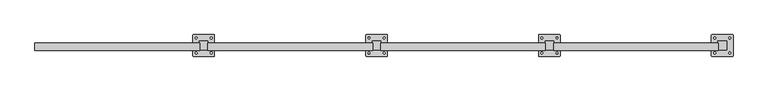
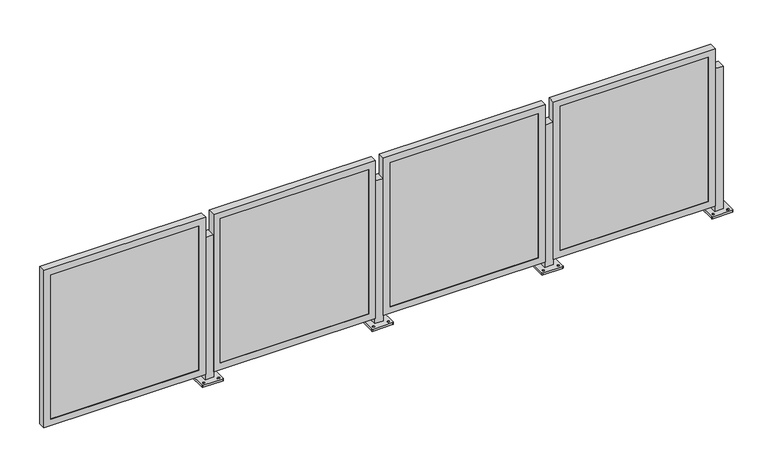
"""IFC4 building model written with IfcOpenShell, lengths in millimetres: railing geometry."""

from ifc_helpers import new_model, si_unit, frame, origin, place, context, project, spatial, polyline, circle_curve, outline, extrude, faceted_brep, source, transform, mapped, element, save
from ifc_brep_helpers import plane_surface, cylinder_surface, revolved_surface, advanced_brep


def railing_c4543240(model_context):
    return source(origin(), model_context, "Body", "SolidModel", [
        advanced_brep(
        [(-22960.2510122, -6796.0307329, 914.4), (-22960.2510122, -6846.8307329, 914.4), (-22909.4510122, -6846.8307329, 914.4), (-22909.4510122, -6796.0307329, 914.4), (-22998.3510123, -6881.7556919, 0.0), (-22998.3510123, -6761.105774, 0.0), (-22995.1759842, -6757.9307458, 0.0), (-22874.5260402, -6757.9307458, 0.0), (-22871.351012, -6761.105774, 0.0), (-22871.351012, -6881.7556919, 0.0), (-22874.5260402, -6884.9307201, 0.0), (-22995.1759842, -6884.9307201, 0.0), (-22979.3009997, -6871.4369876, 0.0), (-22979.3009997, -6860.3244751, 0.0), (-22979.3010106, -6782.5369832, 0.0), (-22979.3010106, -6771.4245016, 0.0), (-22890.4009988, -6871.4369861, 0.0), (-22890.4009988, -6860.3244754, 0.0), (-22890.4010097, -6782.5369817, 0.0), (-22890.4010097, -6771.4245019, 0.0), (-22960.2510122, -6796.0307329, 12.7), (-22960.2510122, -6846.8307329, 12.7), (-22909.4510122, -6846.8307329, 12.7), (-22909.4510122, -6796.0307329, 12.7), (-22998.3510123, -6881.7556919, 12.7), (-22995.1759842, -6884.9307201, 12.7), (-22874.5260402, -6884.9307201, 12.7), (-22871.351012, -6881.7556919, 12.7), (-22871.351012, -6761.105774, 12.7), (-22874.5260402, -6757.9307458, 12.7), (-22995.1759842, -6757.9307458, 12.7), (-22998.3510123, -6761.105774, 12.7), (-22979.3009997, -6871.4369876, 12.7), (-22979.3009997, -6860.3244751, 12.7), (-22979.3010106, -6782.5369832, 12.7), (-22979.3010106, -6771.4245016, 12.7), (-22890.4009988, -6871.4369861, 12.7), (-22890.4009988, -6860.3244754, 12.7), (-22890.4010097, -6782.5369817, 12.7), (-22890.4010097, -6771.4245019, 12.7)],
        [
            (0, 1),
            (1, 2),
            (2, 3),
            (3, 0),
            (4, 5),
            (5, 6, circle_curve(frame((-22995.1759842, -6761.105774, 0.0), z_axis=(0.0, 0.0, -1.0), x_axis=(0.0, 1.0, 0.0)), 3.1750282)),
            (6, 7),
            (7, 8, circle_curve(frame((-22874.5260402, -6761.105774, 0.0), z_axis=(0.0, 0.0, -1.0), x_axis=(0.0, 1.0, 0.0)), 3.1750282)),
            (8, 9),
            (9, 10, circle_curve(frame((-22874.5260402, -6881.7556919, 0.0), z_axis=(0.0, 0.0, -1.0), x_axis=(0.0, 1.0, 0.0)), 3.1750282)),
            (10, 11),
            (11, 4, circle_curve(frame((-22995.1759842, -6881.7556919, 0.0), z_axis=(0.0, 0.0, -1.0), x_axis=(0.0, 1.0, 0.0)), 3.1750282)),
            (12, 13, circle_curve(frame((-22979.3009997, -6865.8807314, 0.0), z_axis=(0.0, 0.0, 1.0), x_axis=(0.0, 1.0, 0.0)), 5.5562562)),
            (13, 12, circle_curve(frame((-22979.3009997, -6865.8807314, 0.0), z_axis=(0.0, 0.0, 1.0), x_axis=(0.0, 1.0, 0.0)), 5.5562562)),
            (14, 15, circle_curve(frame((-22979.3010106, -6776.9807424, 0.0), z_axis=(0.0, 0.0, 1.0), x_axis=(0.0, 1.0, 0.0)), 5.5562408)),
            (15, 14, circle_curve(frame((-22979.3010106, -6776.9807424, 0.0), z_axis=(0.0, 0.0, 1.0), x_axis=(0.0, 1.0, 0.0)), 5.5562408)),
            (16, 17, circle_curve(frame((-22890.4009988, -6865.8807307, 0.0), z_axis=(0.0, 0.0, 1.0), x_axis=(0.0, 1.0, 0.0)), 5.5562553)),
            (17, 16, circle_curve(frame((-22890.4009988, -6865.8807307, 0.0), z_axis=(0.0, 0.0, 1.0), x_axis=(0.0, 1.0, 0.0)), 5.5562553)),
            (18, 19, circle_curve(frame((-22890.4010097, -6776.9807418, 0.0), z_axis=(0.0, 0.0, 1.0), x_axis=(0.0, 1.0, 0.0)), 5.5562399)),
            (19, 18, circle_curve(frame((-22890.4010097, -6776.9807418, 0.0), z_axis=(0.0, 0.0, 1.0), x_axis=(0.0, 1.0, 0.0)), 5.5562399)),
            (0, 20),
            (20, 21),
            (21, 1),
            (21, 22),
            (22, 2),
            (22, 23),
            (23, 3),
            (23, 20),
            (24, 25, circle_curve(frame((-22995.1759842, -6881.7556919, 12.7), z_axis=(0.0, 0.0, 1.0), x_axis=(0.0, 1.0, 0.0)), 3.1750282)),
            (25, 26),
            (26, 27, circle_curve(frame((-22874.5260402, -6881.7556919, 12.7), z_axis=(0.0, 0.0, 1.0), x_axis=(0.0, 1.0, 0.0)), 3.1750282)),
            (27, 28),
            (28, 29, circle_curve(frame((-22874.5260402, -6761.105774, 12.7), z_axis=(0.0, 0.0, 1.0), x_axis=(0.0, 1.0, 0.0)), 3.1750282)),
            (29, 30),
            (30, 31, circle_curve(frame((-22995.1759842, -6761.105774, 12.7), z_axis=(0.0, 0.0, 1.0), x_axis=(0.0, 1.0, 0.0)), 3.1750282)),
            (31, 24),
            (32, 33, circle_curve(frame((-22979.3009997, -6865.8807314, 12.7), z_axis=(0.0, 0.0, -1.0), x_axis=(0.0, 1.0, 0.0)), 5.5562562)),
            (33, 32, circle_curve(frame((-22979.3009997, -6865.8807314, 12.7), z_axis=(0.0, 0.0, -1.0), x_axis=(0.0, 1.0, 0.0)), 5.5562562)),
            (34, 35, circle_curve(frame((-22979.3010106, -6776.9807424, 12.7), z_axis=(0.0, 0.0, -1.0), x_axis=(0.0, 1.0, 0.0)), 5.5562408)),
            (35, 34, circle_curve(frame((-22979.3010106, -6776.9807424, 12.7), z_axis=(0.0, 0.0, -1.0), x_axis=(0.0, 1.0, 0.0)), 5.5562408)),
            (36, 37, circle_curve(frame((-22890.4009988, -6865.8807307, 12.7), z_axis=(0.0, 0.0, -1.0), x_axis=(0.0, 1.0, 0.0)), 5.5562553)),
            (37, 36, circle_curve(frame((-22890.4009988, -6865.8807307, 12.7), z_axis=(0.0, 0.0, -1.0), x_axis=(0.0, 1.0, 0.0)), 5.5562553)),
            (38, 39, circle_curve(frame((-22890.4010097, -6776.9807418, 12.7), z_axis=(0.0, 0.0, -1.0), x_axis=(0.0, 1.0, 0.0)), 5.5562399)),
            (39, 38, circle_curve(frame((-22890.4010097, -6776.9807418, 12.7), z_axis=(0.0, 0.0, -1.0), x_axis=(0.0, 1.0, 0.0)), 5.5562399)),
            (24, 4),
            (11, 25),
            (10, 26),
            (9, 27),
            (8, 28),
            (7, 29),
            (6, 30),
            (5, 31),
            (32, 12),
            (13, 33),
            (34, 14),
            (15, 35),
            (36, 16),
            (17, 37),
            (38, 18),
            (19, 39),
        ],
        [
            plane_surface(frame((-22960.2510122, -6846.8307329, 914.4), z_axis=(0.0, 0.0, 1.0), x_axis=(0.0, -1.0, 0.0))),
            plane_surface(frame((-22960.2510122, -6846.8307329, 0.0), z_axis=(0.0, 0.0, -1.0), x_axis=(0.0, 1.0, 0.0))),
            plane_surface(frame((-22960.2510122, -6796.0307329, 914.4), z_axis=(-1.0, 0.0, 0.0), x_axis=(0.0, 0.0, -1.0))),
            plane_surface(frame((-22960.2510122, -6846.8307329, 914.4), z_axis=(0.0, -1.0, 0.0), x_axis=(0.0, 0.0, -1.0))),
            plane_surface(frame((-22909.4510122, -6846.8307329, 914.4), z_axis=(1.0, 0.0, 0.0), x_axis=(0.0, 0.0, -1.0))),
            plane_surface(frame((-22909.4510122, -6796.0307329, 914.4), z_axis=(0.0, 1.0, 0.0), x_axis=(0.0, 0.0, -1.0))),
            plane_surface(frame((-22995.1759842, -6878.5806638, 12.7), z_axis=(0.0, 0.0, 1.0), x_axis=(-1.0, 0.0, 0.0))),
            cylinder_surface(frame((-22995.1759842, -6881.7556919, 0.0), z_axis=(0.0, 0.0, 1.0), x_axis=(0.0, 1.0, 0.0)), 3.1750282),
            plane_surface(frame((-22995.1759842, -6884.9307201, 12.7), z_axis=(1.1945386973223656e-12, -1.0, 0.0), x_axis=(0.0, 0.0, -1.0))),
            cylinder_surface(frame((-22874.5260402, -6881.7556919, 0.0), z_axis=(0.0, 0.0, 1.0), x_axis=(0.0, 1.0, 0.0)), 3.1750282),
            plane_surface(frame((-22871.351012, -6881.7556919, 12.7), z_axis=(1.0, 0.0, 0.0), x_axis=(0.0, 0.0, -1.0))),
            cylinder_surface(frame((-22874.5260402, -6761.105774, 0.0), z_axis=(0.0, 0.0, 1.0), x_axis=(0.0, 1.0, 0.0)), 3.1750282),
            plane_surface(frame((-22874.5260402, -6757.9307458, 12.7), z_axis=(-1.1946088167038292e-12, 1.0, 0.0), x_axis=(0.0, 0.0, -1.0))),
            cylinder_surface(frame((-22995.1759842, -6761.105774, 0.0), z_axis=(0.0, 0.0, 1.0), x_axis=(0.0, 1.0, 0.0)), 3.1750282),
            plane_surface(frame((-22998.3510123, -6761.105774, 12.7), z_axis=(-1.0, 0.0, 0.0), x_axis=(0.0, 0.0, -1.0))),
            revolved_surface(polyline([(-22979.3009997, -6860.3244752, 0.0), (-22979.3009997, -6860.3244752, 12.7)]), (-22979.3009997, -6865.8807314, 0.0), (0.0, 0.0, -1.0)),
            revolved_surface(polyline([(-22979.3010106, -6771.4245016, 0.0), (-22979.3010106, -6771.4245016, 12.7)]), (-22979.3010106, -6776.9807424, 0.0), (0.0, 0.0, -1.0)),
            revolved_surface(polyline([(-22890.4009988, -6860.3244754, 0.0), (-22890.4009988, -6860.3244754, 12.7)]), (-22890.4009988, -6865.8807307, 0.0), (0.0, 0.0, -1.0)),
            revolved_surface(polyline([(-22890.4010097, -6771.4245019, 0.0), (-22890.4010097, -6771.4245019, 12.7)]), (-22890.4010097, -6776.9807418, 0.0), (0.0, 0.0, -1.0)),
        ],
        [
            (0, [[1, 2, 3, 4]]),
            (1, [[5, 6, 7, 8, 9, 10, 11, 12], [13, 14], [15, 16], [17, 18], [19, 20]]),
            (2, [[-1, 21, 22, 23]]),
            (3, [[-2, -23, 24, 25]]),
            (4, [[-3, -25, 26, 27]]),
            (5, [[-4, -27, 28, -21]]),
            (6, [[29, 30, 31, 32, 33, 34, 35, 36], [-22, -28, -26, -24], [37, 38], [39, 40], [41, 42], [43, 44]]),
            (7, [[-29, 45, -12, 46]]),
            (8, [[-30, -46, -11, 47]]),
            (9, [[-31, -47, -10, 48]]),
            (10, [[-32, -48, -9, 49]]),
            (11, [[-33, -49, -8, 50]]),
            (12, [[-34, -50, -7, 51]]),
            (13, [[-35, -51, -6, 52]]),
            (14, [[-36, -52, -5, -45]]),
            (15, [[-37, 53, -14, 54]]),
            (15, [[-38, -54, -13, -53]]),
            (16, [[-39, 55, -16, 56]]),
            (16, [[-40, -56, -15, -55]]),
            (17, [[-41, 57, -18, 58]]),
            (17, [[-42, -58, -17, -57]]),
            (18, [[-43, 59, -20, 60]]),
            (18, [[-44, -60, -19, -59]]),
        ],
    ),
        faceted_brep([(-23926.6554656, -6849.5739329, 47.625), (-22958.2804656, -6849.5739329, 47.625), (-22958.2804656, -6849.5739329, 1044.575), (-23926.6554656, -6849.5739329, 1044.575), (-23885.3804656, -6849.5739329, 1003.3), (-22999.5554656, -6849.5739329, 1003.3), (-22999.5554656, -6849.5739329, 88.9), (-23885.3804656, -6849.5739329, 88.9), (-23885.3804656, -6846.8307329, 1003.3), (-23885.3804656, -6846.8307329, 88.9), (-23926.6554656, -6805.7006364, 1044.575), (-23926.6554656, -6805.7006364, 47.625), (-23923.4804656, -6805.7006364, 1041.4), (-23923.4804656, -6846.8307329, 1041.4), (-23923.4804656, -6846.8307329, 50.8), (-23923.4804656, -6805.7006364, 50.8), (-22999.5554656, -6846.8307329, 88.9), (-22958.2804656, -6805.7006364, 47.625), (-22961.4554656, -6846.8307329, 50.8), (-22961.4554656, -6805.7006364, 50.8), (-22999.5554656, -6846.8307329, 1003.3), (-22958.2804656, -6805.7006364, 1044.575), (-22961.4554656, -6846.8307329, 1041.4), (-22961.4554656, -6805.7006364, 1041.4)], [[[0, 1, 2, 3], [4, 5, 6, 7]], [[8, 4, 7, 9]], [[3, 10, 11, 0]], [[12, 13, 14, 15]], [[9, 7, 6, 16]], [[0, 11, 17, 1]], [[15, 14, 18, 19]], [[16, 6, 5, 20]], [[1, 17, 21, 2]], [[19, 18, 22, 23]], [[20, 5, 4, 8]], [[10, 21, 17, 11], [15, 19, 23, 12]], [[2, 21, 10, 3]], [[13, 22, 18, 14], [9, 16, 20, 8]], [[23, 22, 13, 12]]]),
        extrude(outline(polyline([(-23923.4804656, -6837.3057329), (-22961.4554656, -6837.3057329), (-22961.4554656, -6846.8307329), (-23923.4804656, -6846.8307329), (-23923.4804656, -6837.3057329)])), frame((0.0, 0.0, 50.8), z_axis=(0.0, 0.0, 1.0), x_axis=(1.0, 0.0, 0.0)), (0.0, 0.0, 1.0), 990.6),
        advanced_brep(
        [(-23976.2510122, -6796.0307329, 914.4), (-23976.2510122, -6846.8307329, 914.4), (-23925.4510122, -6846.8307329, 914.4), (-23925.4510122, -6796.0307329, 914.4), (-24014.3510123, -6881.7556919, 0.0), (-24014.3510123, -6761.105774, 0.0), (-24011.1759842, -6757.9307458, 0.0), (-23890.5260402, -6757.9307458, 0.0), (-23887.351012, -6761.105774, 0.0), (-23887.351012, -6881.7556919, 0.0), (-23890.5260402, -6884.9307201, 0.0), (-24011.1759842, -6884.9307201, 0.0), (-23995.3009997, -6871.4369876, 0.0), (-23995.3009997, -6860.3244751, 0.0), (-23995.3010106, -6782.5369832, 0.0), (-23995.3010106, -6771.4245016, 0.0), (-23906.4009988, -6871.4369861, 0.0), (-23906.4009988, -6860.3244754, 0.0), (-23906.4010097, -6782.5369817, 0.0), (-23906.4010097, -6771.4245019, 0.0), (-23976.2510122, -6796.0307329, 12.7), (-23976.2510122, -6846.8307329, 12.7), (-23925.4510122, -6846.8307329, 12.7), (-23925.4510122, -6796.0307329, 12.7), (-24014.3510123, -6881.7556919, 12.7), (-24011.1759842, -6884.9307201, 12.7), (-23890.5260402, -6884.9307201, 12.7), (-23887.351012, -6881.7556919, 12.7), (-23887.351012, -6761.105774, 12.7), (-23890.5260402, -6757.9307458, 12.7), (-24011.1759842, -6757.9307458, 12.7), (-24014.3510123, -6761.105774, 12.7), (-23995.3009997, -6871.4369876, 12.7), (-23995.3009997, -6860.3244751, 12.7), (-23995.3010106, -6782.5369832, 12.7), (-23995.3010106, -6771.4245016, 12.7), (-23906.4009988, -6871.4369861, 12.7), (-23906.4009988, -6860.3244754, 12.7), (-23906.4010097, -6782.5369817, 12.7), (-23906.4010097, -6771.4245019, 12.7)],
        [
            (0, 1),
            (1, 2),
            (2, 3),
            (3, 0),
            (4, 5),
            (5, 6, circle_curve(frame((-24011.1759842, -6761.105774, 0.0), z_axis=(0.0, 0.0, -1.0), x_axis=(0.0, 1.0, 0.0)), 3.1750282)),
            (6, 7),
            (7, 8, circle_curve(frame((-23890.5260402, -6761.105774, 0.0), z_axis=(0.0, 0.0, -1.0), x_axis=(0.0, 1.0, 0.0)), 3.1750282)),
            (8, 9),
            (9, 10, circle_curve(frame((-23890.5260402, -6881.7556919, 0.0), z_axis=(0.0, 0.0, -1.0), x_axis=(0.0, 1.0, 0.0)), 3.1750282)),
            (10, 11),
            (11, 4, circle_curve(frame((-24011.1759842, -6881.7556919, 0.0), z_axis=(0.0, 0.0, -1.0), x_axis=(0.0, 1.0, 0.0)), 3.1750282)),
            (12, 13, circle_curve(frame((-23995.3009997, -6865.8807314, 0.0), z_axis=(0.0, 0.0, 1.0), x_axis=(0.0, 1.0, 0.0)), 5.5562562)),
            (13, 12, circle_curve(frame((-23995.3009997, -6865.8807314, 0.0), z_axis=(0.0, 0.0, 1.0), x_axis=(0.0, 1.0, 0.0)), 5.5562562)),
            (14, 15, circle_curve(frame((-23995.3010106, -6776.9807424, 0.0), z_axis=(0.0, 0.0, 1.0), x_axis=(0.0, 1.0, 0.0)), 5.5562408)),
            (15, 14, circle_curve(frame((-23995.3010106, -6776.9807424, 0.0), z_axis=(0.0, 0.0, 1.0), x_axis=(0.0, 1.0, 0.0)), 5.5562408)),
            (16, 17, circle_curve(frame((-23906.4009988, -6865.8807307, 0.0), z_axis=(0.0, 0.0, 1.0), x_axis=(0.0, 1.0, 0.0)), 5.5562553)),
            (17, 16, circle_curve(frame((-23906.4009988, -6865.8807307, 0.0), z_axis=(0.0, 0.0, 1.0), x_axis=(0.0, 1.0, 0.0)), 5.5562553)),
            (18, 19, circle_curve(frame((-23906.4010097, -6776.9807418, 0.0), z_axis=(0.0, 0.0, 1.0), x_axis=(0.0, 1.0, 0.0)), 5.5562399)),
            (19, 18, circle_curve(frame((-23906.4010097, -6776.9807418, 0.0), z_axis=(0.0, 0.0, 1.0), x_axis=(0.0, 1.0, 0.0)), 5.5562399)),
            (0, 20),
            (20, 21),
            (21, 1),
            (21, 22),
            (22, 2),
            (22, 23),
            (23, 3),
            (23, 20),
            (24, 25, circle_curve(frame((-24011.1759842, -6881.7556919, 12.7), z_axis=(0.0, 0.0, 1.0), x_axis=(0.0, 1.0, 0.0)), 3.1750282)),
            (25, 26),
            (26, 27, circle_curve(frame((-23890.5260402, -6881.7556919, 12.7), z_axis=(0.0, 0.0, 1.0), x_axis=(0.0, 1.0, 0.0)), 3.1750282)),
            (27, 28),
            (28, 29, circle_curve(frame((-23890.5260402, -6761.105774, 12.7), z_axis=(0.0, 0.0, 1.0), x_axis=(0.0, 1.0, 0.0)), 3.1750282)),
            (29, 30),
            (30, 31, circle_curve(frame((-24011.1759842, -6761.105774, 12.7), z_axis=(0.0, 0.0, 1.0), x_axis=(0.0, 1.0, 0.0)), 3.1750282)),
            (31, 24),
            (32, 33, circle_curve(frame((-23995.3009997, -6865.8807314, 12.7), z_axis=(0.0, 0.0, -1.0), x_axis=(0.0, 1.0, 0.0)), 5.5562562)),
            (33, 32, circle_curve(frame((-23995.3009997, -6865.8807314, 12.7), z_axis=(0.0, 0.0, -1.0), x_axis=(0.0, 1.0, 0.0)), 5.5562562)),
            (34, 35, circle_curve(frame((-23995.3010106, -6776.9807424, 12.7), z_axis=(0.0, 0.0, -1.0), x_axis=(0.0, 1.0, 0.0)), 5.5562408)),
            (35, 34, circle_curve(frame((-23995.3010106, -6776.9807424, 12.7), z_axis=(0.0, 0.0, -1.0), x_axis=(0.0, 1.0, 0.0)), 5.5562408)),
            (36, 37, circle_curve(frame((-23906.4009988, -6865.8807307, 12.7), z_axis=(0.0, 0.0, -1.0), x_axis=(0.0, 1.0, 0.0)), 5.5562553)),
            (37, 36, circle_curve(frame((-23906.4009988, -6865.8807307, 12.7), z_axis=(0.0, 0.0, -1.0), x_axis=(0.0, 1.0, 0.0)), 5.5562553)),
            (38, 39, circle_curve(frame((-23906.4010097, -6776.9807418, 12.7), z_axis=(0.0, 0.0, -1.0), x_axis=(0.0, 1.0, 0.0)), 5.5562399)),
            (39, 38, circle_curve(frame((-23906.4010097, -6776.9807418, 12.7), z_axis=(0.0, 0.0, -1.0), x_axis=(0.0, 1.0, 0.0)), 5.5562399)),
            (24, 4),
            (11, 25),
            (10, 26),
            (9, 27),
            (8, 28),
            (7, 29),
            (6, 30),
            (5, 31),
            (32, 12),
            (13, 33),
            (34, 14),
            (15, 35),
            (36, 16),
            (17, 37),
            (38, 18),
            (19, 39),
        ],
        [
            plane_surface(frame((-23976.2510122, -6846.8307329, 914.4), z_axis=(0.0, 0.0, 1.0), x_axis=(0.0, -1.0, 0.0))),
            plane_surface(frame((-23976.2510122, -6846.8307329, 0.0), z_axis=(0.0, 0.0, -1.0), x_axis=(0.0, 1.0, 0.0))),
            plane_surface(frame((-23976.2510122, -6796.0307329, 914.4), z_axis=(-1.0, 0.0, 0.0), x_axis=(0.0, 0.0, -1.0))),
            plane_surface(frame((-23976.2510122, -6846.8307329, 914.4), z_axis=(0.0, -1.0, 0.0), x_axis=(0.0, 0.0, -1.0))),
            plane_surface(frame((-23925.4510122, -6846.8307329, 914.4), z_axis=(1.0, 0.0, 0.0), x_axis=(0.0, 0.0, -1.0))),
            plane_surface(frame((-23925.4510122, -6796.0307329, 914.4), z_axis=(0.0, 1.0, 0.0), x_axis=(0.0, 0.0, -1.0))),
            plane_surface(frame((-24011.1759842, -6878.5806638, 12.7), z_axis=(0.0, 0.0, 1.0), x_axis=(-1.0, 0.0, 0.0))),
            cylinder_surface(frame((-24011.1759842, -6881.7556919, 0.0), z_axis=(0.0, 0.0, 1.0), x_axis=(0.0, 1.0, 0.0)), 3.1750282),
            plane_surface(frame((-24011.1759842, -6884.9307201, 12.7), z_axis=(1.1945386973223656e-12, -1.0, 0.0), x_axis=(0.0, 0.0, -1.0))),
            cylinder_surface(frame((-23890.5260402, -6881.7556919, 0.0), z_axis=(0.0, 0.0, 1.0), x_axis=(0.0, 1.0, 0.0)), 3.1750282),
            plane_surface(frame((-23887.351012, -6881.7556919, 12.7), z_axis=(1.0, 0.0, 0.0), x_axis=(0.0, 0.0, -1.0))),
            cylinder_surface(frame((-23890.5260402, -6761.105774, 0.0), z_axis=(0.0, 0.0, 1.0), x_axis=(0.0, 1.0, 0.0)), 3.1750282),
            plane_surface(frame((-23890.5260402, -6757.9307458, 12.7), z_axis=(-1.1946088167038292e-12, 1.0, 0.0), x_axis=(0.0, 0.0, -1.0))),
            cylinder_surface(frame((-24011.1759842, -6761.105774, 0.0), z_axis=(0.0, 0.0, 1.0), x_axis=(0.0, 1.0, 0.0)), 3.1750282),
            plane_surface(frame((-24014.3510123, -6761.105774, 12.7), z_axis=(-1.0, 0.0, 0.0), x_axis=(0.0, 0.0, -1.0))),
            revolved_surface(polyline([(-23995.3009997, -6860.3244752, 0.0), (-23995.3009997, -6860.3244752, 12.7)]), (-23995.3009997, -6865.8807314, 0.0), (0.0, 0.0, -1.0)),
            revolved_surface(polyline([(-23995.3010106, -6771.4245016, 0.0), (-23995.3010106, -6771.4245016, 12.7)]), (-23995.3010106, -6776.9807424, 0.0), (0.0, 0.0, -1.0)),
            revolved_surface(polyline([(-23906.4009988, -6860.3244754, 0.0), (-23906.4009988, -6860.3244754, 12.7)]), (-23906.4009988, -6865.8807307, 0.0), (0.0, 0.0, -1.0)),
            revolved_surface(polyline([(-23906.4010097, -6771.4245019, 0.0), (-23906.4010097, -6771.4245019, 12.7)]), (-23906.4010097, -6776.9807418, 0.0), (0.0, 0.0, -1.0)),
        ],
        [
            (0, [[1, 2, 3, 4]]),
            (1, [[5, 6, 7, 8, 9, 10, 11, 12], [13, 14], [15, 16], [17, 18], [19, 20]]),
            (2, [[-1, 21, 22, 23]]),
            (3, [[-2, -23, 24, 25]]),
            (4, [[-3, -25, 26, 27]]),
            (5, [[-4, -27, 28, -21]]),
            (6, [[29, 30, 31, 32, 33, 34, 35, 36], [-22, -28, -26, -24], [37, 38], [39, 40], [41, 42], [43, 44]]),
            (7, [[-29, 45, -12, 46]]),
            (8, [[-30, -46, -11, 47]]),
            (9, [[-31, -47, -10, 48]]),
            (10, [[-32, -48, -9, 49]]),
            (11, [[-33, -49, -8, 50]]),
            (12, [[-34, -50, -7, 51]]),
            (13, [[-35, -51, -6, 52]]),
            (14, [[-36, -52, -5, -45]]),
            (15, [[-37, 53, -14, 54]]),
            (15, [[-38, -54, -13, -53]]),
            (16, [[-39, 55, -16, 56]]),
            (16, [[-40, -56, -15, -55]]),
            (17, [[-41, 57, -18, 58]]),
            (17, [[-42, -58, -17, -57]]),
            (18, [[-43, 59, -20, 60]]),
            (18, [[-44, -60, -19, -59]]),
        ],
    ),
        faceted_brep([(-24942.6554656, -6849.5739329, 47.625), (-23974.2804656, -6849.5739329, 47.625), (-23974.2804656, -6849.5739329, 1044.575), (-24942.6554656, -6849.5739329, 1044.575), (-24901.3804656, -6849.5739329, 1003.3), (-24015.5554656, -6849.5739329, 1003.3), (-24015.5554656, -6849.5739329, 88.9), (-24901.3804656, -6849.5739329, 88.9), (-24901.3804656, -6846.8307329, 1003.3), (-24901.3804656, -6846.8307329, 88.9), (-24942.6554656, -6805.7006364, 1044.575), (-24942.6554656, -6805.7006364, 47.625), (-24939.4804656, -6805.7006364, 1041.4), (-24939.4804656, -6846.8307329, 1041.4), (-24939.4804656, -6846.8307329, 50.8), (-24939.4804656, -6805.7006364, 50.8), (-24015.5554656, -6846.8307329, 88.9), (-23974.2804656, -6805.7006364, 47.625), (-23977.4554656, -6846.8307329, 50.8), (-23977.4554656, -6805.7006364, 50.8), (-24015.5554656, -6846.8307329, 1003.3), (-23974.2804656, -6805.7006364, 1044.575), (-23977.4554656, -6846.8307329, 1041.4), (-23977.4554656, -6805.7006364, 1041.4)], [[[0, 1, 2, 3], [4, 5, 6, 7]], [[8, 4, 7, 9]], [[3, 10, 11, 0]], [[12, 13, 14, 15]], [[9, 7, 6, 16]], [[0, 11, 17, 1]], [[15, 14, 18, 19]], [[16, 6, 5, 20]], [[1, 17, 21, 2]], [[19, 18, 22, 23]], [[20, 5, 4, 8]], [[10, 21, 17, 11], [15, 19, 23, 12]], [[2, 21, 10, 3]], [[13, 22, 18, 14], [9, 16, 20, 8]], [[23, 22, 13, 12]]]),
        extrude(outline(polyline([(-24939.4804656, -6837.3057329), (-23977.4554656, -6837.3057329), (-23977.4554656, -6846.8307329), (-24939.4804656, -6846.8307329), (-24939.4804656, -6837.3057329)])), frame((0.0, 0.0, 50.8), z_axis=(0.0, 0.0, 1.0), x_axis=(1.0, 0.0, 0.0)), (0.0, 0.0, 1.0), 990.6),
        advanced_brep(
        [(-24992.2510122, -6796.0307329, 914.4), (-24992.2510122, -6846.8307329, 914.4), (-24941.4510122, -6846.8307329, 914.4), (-24941.4510122, -6796.0307329, 914.4), (-25030.3510123, -6881.7556919, 0.0), (-25030.3510123, -6761.105774, 0.0), (-25027.1759842, -6757.9307458, 0.0), (-24906.5260402, -6757.9307458, 0.0), (-24903.351012, -6761.105774, 0.0), (-24903.351012, -6881.7556919, 0.0), (-24906.5260402, -6884.9307201, 0.0), (-25027.1759842, -6884.9307201, 0.0), (-25011.3009997, -6871.4369876, 0.0), (-25011.3009997, -6860.3244751, 0.0), (-25011.3010106, -6782.5369832, 0.0), (-25011.3010106, -6771.4245016, 0.0), (-24922.4009988, -6871.4369861, 0.0), (-24922.4009988, -6860.3244754, 0.0), (-24922.4010097, -6782.5369817, 0.0), (-24922.4010097, -6771.4245019, 0.0), (-24992.2510122, -6796.0307329, 12.7), (-24992.2510122, -6846.8307329, 12.7), (-24941.4510122, -6846.8307329, 12.7), (-24941.4510122, -6796.0307329, 12.7), (-25030.3510123, -6881.7556919, 12.7), (-25027.1759842, -6884.9307201, 12.7), (-24906.5260402, -6884.9307201, 12.7), (-24903.351012, -6881.7556919, 12.7), (-24903.351012, -6761.105774, 12.7), (-24906.5260402, -6757.9307458, 12.7), (-25027.1759842, -6757.9307458, 12.7), (-25030.3510123, -6761.105774, 12.7), (-25011.3009997, -6871.4369876, 12.7), (-25011.3009997, -6860.3244751, 12.7), (-25011.3010106, -6782.5369832, 12.7), (-25011.3010106, -6771.4245016, 12.7), (-24922.4009988, -6871.4369861, 12.7), (-24922.4009988, -6860.3244754, 12.7), (-24922.4010097, -6782.5369817, 12.7), (-24922.4010097, -6771.4245019, 12.7)],
        [
            (0, 1),
            (1, 2),
            (2, 3),
            (3, 0),
            (4, 5),
            (5, 6, circle_curve(frame((-25027.1759842, -6761.105774, 0.0), z_axis=(0.0, 0.0, -1.0), x_axis=(0.0, 1.0, 0.0)), 3.1750282)),
            (6, 7),
            (7, 8, circle_curve(frame((-24906.5260402, -6761.105774, 0.0), z_axis=(0.0, 0.0, -1.0), x_axis=(0.0, 1.0, 0.0)), 3.1750282)),
            (8, 9),
            (9, 10, circle_curve(frame((-24906.5260402, -6881.7556919, 0.0), z_axis=(0.0, 0.0, -1.0), x_axis=(0.0, 1.0, 0.0)), 3.1750282)),
            (10, 11),
            (11, 4, circle_curve(frame((-25027.1759842, -6881.7556919, 0.0), z_axis=(0.0, 0.0, -1.0), x_axis=(0.0, 1.0, 0.0)), 3.1750282)),
            (12, 13, circle_curve(frame((-25011.3009997, -6865.8807314, 0.0), z_axis=(0.0, 0.0, 1.0), x_axis=(0.0, 1.0, 0.0)), 5.5562562)),
            (13, 12, circle_curve(frame((-25011.3009997, -6865.8807314, 0.0), z_axis=(0.0, 0.0, 1.0), x_axis=(0.0, 1.0, 0.0)), 5.5562562)),
            (14, 15, circle_curve(frame((-25011.3010106, -6776.9807424, 0.0), z_axis=(0.0, 0.0, 1.0), x_axis=(0.0, 1.0, 0.0)), 5.5562408)),
            (15, 14, circle_curve(frame((-25011.3010106, -6776.9807424, 0.0), z_axis=(0.0, 0.0, 1.0), x_axis=(0.0, 1.0, 0.0)), 5.5562408)),
            (16, 17, circle_curve(frame((-24922.4009988, -6865.8807307, 0.0), z_axis=(0.0, 0.0, 1.0), x_axis=(0.0, 1.0, 0.0)), 5.5562553)),
            (17, 16, circle_curve(frame((-24922.4009988, -6865.8807307, 0.0), z_axis=(0.0, 0.0, 1.0), x_axis=(0.0, 1.0, 0.0)), 5.5562553)),
            (18, 19, circle_curve(frame((-24922.4010097, -6776.9807418, 0.0), z_axis=(0.0, 0.0, 1.0), x_axis=(0.0, 1.0, 0.0)), 5.5562399)),
            (19, 18, circle_curve(frame((-24922.4010097, -6776.9807418, 0.0), z_axis=(0.0, 0.0, 1.0), x_axis=(0.0, 1.0, 0.0)), 5.5562399)),
            (0, 20),
            (20, 21),
            (21, 1),
            (21, 22),
            (22, 2),
            (22, 23),
            (23, 3),
            (23, 20),
            (24, 25, circle_curve(frame((-25027.1759842, -6881.7556919, 12.7), z_axis=(0.0, 0.0, 1.0), x_axis=(0.0, 1.0, 0.0)), 3.1750282)),
            (25, 26),
            (26, 27, circle_curve(frame((-24906.5260402, -6881.7556919, 12.7), z_axis=(0.0, 0.0, 1.0), x_axis=(0.0, 1.0, 0.0)), 3.1750282)),
            (27, 28),
            (28, 29, circle_curve(frame((-24906.5260402, -6761.105774, 12.7), z_axis=(0.0, 0.0, 1.0), x_axis=(0.0, 1.0, 0.0)), 3.1750282)),
            (29, 30),
            (30, 31, circle_curve(frame((-25027.1759842, -6761.105774, 12.7), z_axis=(0.0, 0.0, 1.0), x_axis=(0.0, 1.0, 0.0)), 3.1750282)),
            (31, 24),
            (32, 33, circle_curve(frame((-25011.3009997, -6865.8807314, 12.7), z_axis=(0.0, 0.0, -1.0), x_axis=(0.0, 1.0, 0.0)), 5.5562562)),
            (33, 32, circle_curve(frame((-25011.3009997, -6865.8807314, 12.7), z_axis=(0.0, 0.0, -1.0), x_axis=(0.0, 1.0, 0.0)), 5.5562562)),
            (34, 35, circle_curve(frame((-25011.3010106, -6776.9807424, 12.7), z_axis=(0.0, 0.0, -1.0), x_axis=(0.0, 1.0, 0.0)), 5.5562408)),
            (35, 34, circle_curve(frame((-25011.3010106, -6776.9807424, 12.7), z_axis=(0.0, 0.0, -1.0), x_axis=(0.0, 1.0, 0.0)), 5.5562408)),
            (36, 37, circle_curve(frame((-24922.4009988, -6865.8807307, 12.7), z_axis=(0.0, 0.0, -1.0), x_axis=(0.0, 1.0, 0.0)), 5.5562553)),
            (37, 36, circle_curve(frame((-24922.4009988, -6865.8807307, 12.7), z_axis=(0.0, 0.0, -1.0), x_axis=(0.0, 1.0, 0.0)), 5.5562553)),
            (38, 39, circle_curve(frame((-24922.4010097, -6776.9807418, 12.7), z_axis=(0.0, 0.0, -1.0), x_axis=(0.0, 1.0, 0.0)), 5.5562399)),
            (39, 38, circle_curve(frame((-24922.4010097, -6776.9807418, 12.7), z_axis=(0.0, 0.0, -1.0), x_axis=(0.0, 1.0, 0.0)), 5.5562399)),
            (24, 4),
            (11, 25),
            (10, 26),
            (9, 27),
            (8, 28),
            (7, 29),
            (6, 30),
            (5, 31),
            (32, 12),
            (13, 33),
            (34, 14),
            (15, 35),
            (36, 16),
            (17, 37),
            (38, 18),
            (19, 39),
        ],
        [
            plane_surface(frame((-24992.2510122, -6846.8307329, 914.4), z_axis=(0.0, 0.0, 1.0), x_axis=(0.0, -1.0, 0.0))),
            plane_surface(frame((-24992.2510122, -6846.8307329, 0.0), z_axis=(0.0, 0.0, -1.0), x_axis=(0.0, 1.0, 0.0))),
            plane_surface(frame((-24992.2510122, -6796.0307329, 914.4), z_axis=(-1.0, 0.0, 0.0), x_axis=(0.0, 0.0, -1.0))),
            plane_surface(frame((-24992.2510122, -6846.8307329, 914.4), z_axis=(0.0, -1.0, 0.0), x_axis=(0.0, 0.0, -1.0))),
            plane_surface(frame((-24941.4510122, -6846.8307329, 914.4), z_axis=(1.0, 0.0, 0.0), x_axis=(0.0, 0.0, -1.0))),
            plane_surface(frame((-24941.4510122, -6796.0307329, 914.4), z_axis=(0.0, 1.0, 0.0), x_axis=(0.0, 0.0, -1.0))),
            plane_surface(frame((-25027.1759842, -6878.5806638, 12.7), z_axis=(0.0, 0.0, 1.0), x_axis=(-1.0, 0.0, 0.0))),
            cylinder_surface(frame((-25027.1759842, -6881.7556919, 0.0), z_axis=(0.0, 0.0, 1.0), x_axis=(0.0, 1.0, 0.0)), 3.1750282),
            plane_surface(frame((-25027.1759842, -6884.9307201, 12.7), z_axis=(1.1945386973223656e-12, -1.0, 0.0), x_axis=(0.0, 0.0, -1.0))),
            cylinder_surface(frame((-24906.5260402, -6881.7556919, 0.0), z_axis=(0.0, 0.0, 1.0), x_axis=(0.0, 1.0, 0.0)), 3.1750282),
            plane_surface(frame((-24903.351012, -6881.7556919, 12.7), z_axis=(1.0, 0.0, 0.0), x_axis=(0.0, 0.0, -1.0))),
            cylinder_surface(frame((-24906.5260402, -6761.105774, 0.0), z_axis=(0.0, 0.0, 1.0), x_axis=(0.0, 1.0, 0.0)), 3.1750282),
            plane_surface(frame((-24906.5260402, -6757.9307458, 12.7), z_axis=(-1.1946088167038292e-12, 1.0, 0.0), x_axis=(0.0, 0.0, -1.0))),
            cylinder_surface(frame((-25027.1759842, -6761.105774, 0.0), z_axis=(0.0, 0.0, 1.0), x_axis=(0.0, 1.0, 0.0)), 3.1750282),
            plane_surface(frame((-25030.3510123, -6761.105774, 12.7), z_axis=(-1.0, 0.0, 0.0), x_axis=(0.0, 0.0, -1.0))),
            revolved_surface(polyline([(-25011.3009997, -6860.3244752, 0.0), (-25011.3009997, -6860.3244752, 12.7)]), (-25011.3009997, -6865.8807314, 0.0), (0.0, 0.0, -1.0)),
            revolved_surface(polyline([(-25011.3010106, -6771.4245016, 0.0), (-25011.3010106, -6771.4245016, 12.7)]), (-25011.3010106, -6776.9807424, 0.0), (0.0, 0.0, -1.0)),
            revolved_surface(polyline([(-24922.4009988, -6860.3244754, 0.0), (-24922.4009988, -6860.3244754, 12.7)]), (-24922.4009988, -6865.8807307, 0.0), (0.0, 0.0, -1.0)),
            revolved_surface(polyline([(-24922.4010097, -6771.4245019, 0.0), (-24922.4010097, -6771.4245019, 12.7)]), (-24922.4010097, -6776.9807418, 0.0), (0.0, 0.0, -1.0)),
        ],
        [
            (0, [[1, 2, 3, 4]]),
            (1, [[5, 6, 7, 8, 9, 10, 11, 12], [13, 14], [15, 16], [17, 18], [19, 20]]),
            (2, [[-1, 21, 22, 23]]),
            (3, [[-2, -23, 24, 25]]),
            (4, [[-3, -25, 26, 27]]),
            (5, [[-4, -27, 28, -21]]),
            (6, [[29, 30, 31, 32, 33, 34, 35, 36], [-22, -28, -26, -24], [37, 38], [39, 40], [41, 42], [43, 44]]),
            (7, [[-29, 45, -12, 46]]),
            (8, [[-30, -46, -11, 47]]),
            (9, [[-31, -47, -10, 48]]),
            (10, [[-32, -48, -9, 49]]),
            (11, [[-33, -49, -8, 50]]),
            (12, [[-34, -50, -7, 51]]),
            (13, [[-35, -51, -6, 52]]),
            (14, [[-36, -52, -5, -45]]),
            (15, [[-37, 53, -14, 54]]),
            (15, [[-38, -54, -13, -53]]),
            (16, [[-39, 55, -16, 56]]),
            (16, [[-40, -56, -15, -55]]),
            (17, [[-41, 57, -18, 58]]),
            (17, [[-42, -58, -17, -57]]),
            (18, [[-43, 59, -20, 60]]),
            (18, [[-44, -60, -19, -59]]),
        ],
    ),
        faceted_brep([(-25958.6554656, -6849.5739329, 47.625), (-24990.2804656, -6849.5739329, 47.625), (-24990.2804656, -6849.5739329, 1044.575), (-25958.6554656, -6849.5739329, 1044.575), (-25917.3804656, -6849.5739329, 1003.3), (-25031.5554656, -6849.5739329, 1003.3), (-25031.5554656, -6849.5739329, 88.9), (-25917.3804656, -6849.5739329, 88.9), (-25917.3804656, -6846.8307329, 1003.3), (-25917.3804656, -6846.8307329, 88.9), (-25958.6554656, -6805.7006364, 1044.575), (-25958.6554656, -6805.7006364, 47.625), (-25955.4804656, -6805.7006364, 1041.4), (-25955.4804656, -6846.8307329, 1041.4), (-25955.4804656, -6846.8307329, 50.8), (-25955.4804656, -6805.7006364, 50.8), (-25031.5554656, -6846.8307329, 88.9), (-24990.2804656, -6805.7006364, 47.625), (-24993.4554656, -6846.8307329, 50.8), (-24993.4554656, -6805.7006364, 50.8), (-25031.5554656, -6846.8307329, 1003.3), (-24990.2804656, -6805.7006364, 1044.575), (-24993.4554656, -6846.8307329, 1041.4), (-24993.4554656, -6805.7006364, 1041.4)], [[[0, 1, 2, 3], [4, 5, 6, 7]], [[8, 4, 7, 9]], [[3, 10, 11, 0]], [[12, 13, 14, 15]], [[9, 7, 6, 16]], [[0, 11, 17, 1]], [[15, 14, 18, 19]], [[16, 6, 5, 20]], [[1, 17, 21, 2]], [[19, 18, 22, 23]], [[20, 5, 4, 8]], [[10, 21, 17, 11], [15, 19, 23, 12]], [[2, 21, 10, 3]], [[13, 22, 18, 14], [9, 16, 20, 8]], [[23, 22, 13, 12]]]),
        extrude(outline(polyline([(-25955.4804656, -6837.3057329), (-24993.4554656, -6837.3057329), (-24993.4554656, -6846.8307329), (-25955.4804656, -6846.8307329), (-25955.4804656, -6837.3057329)])), frame((0.0, 0.0, 50.8), z_axis=(0.0, 0.0, 1.0), x_axis=(1.0, 0.0, 0.0)), (0.0, 0.0, 1.0), 990.6),
        advanced_brep(
        [(-26008.2510122, -6796.0307329, 914.4), (-26008.2510122, -6846.8307329, 914.4), (-25957.4510122, -6846.8307329, 914.4), (-25957.4510122, -6796.0307329, 914.4), (-26046.3510123, -6881.7556919, 0.0), (-26046.3510123, -6761.105774, 0.0), (-26043.1759842, -6757.9307458, 0.0), (-25922.5260402, -6757.9307458, 0.0), (-25919.351012, -6761.105774, 0.0), (-25919.351012, -6881.7556919, 0.0), (-25922.5260402, -6884.9307201, 0.0), (-26043.1759842, -6884.9307201, 0.0), (-26027.3009997, -6871.4369876, 0.0), (-26027.3009997, -6860.3244751, 0.0), (-26027.3010106, -6782.5369832, 0.0), (-26027.3010106, -6771.4245016, 0.0), (-25938.4009988, -6871.4369861, 0.0), (-25938.4009988, -6860.3244754, 0.0), (-25938.4010097, -6782.5369817, 0.0), (-25938.4010097, -6771.4245019, 0.0), (-26008.2510122, -6796.0307329, 12.7), (-26008.2510122, -6846.8307329, 12.7), (-25957.4510122, -6846.8307329, 12.7), (-25957.4510122, -6796.0307329, 12.7), (-26046.3510123, -6881.7556919, 12.7), (-26043.1759842, -6884.9307201, 12.7), (-25922.5260402, -6884.9307201, 12.7), (-25919.351012, -6881.7556919, 12.7), (-25919.351012, -6761.105774, 12.7), (-25922.5260402, -6757.9307458, 12.7), (-26043.1759842, -6757.9307458, 12.7), (-26046.3510123, -6761.105774, 12.7), (-26027.3009997, -6871.4369876, 12.7), (-26027.3009997, -6860.3244751, 12.7), (-26027.3010106, -6782.5369832, 12.7), (-26027.3010106, -6771.4245016, 12.7), (-25938.4009988, -6871.4369861, 12.7), (-25938.4009988, -6860.3244754, 12.7), (-25938.4010097, -6782.5369817, 12.7), (-25938.4010097, -6771.4245019, 12.7)],
        [
            (0, 1),
            (1, 2),
            (2, 3),
            (3, 0),
            (4, 5),
            (5, 6, circle_curve(frame((-26043.1759842, -6761.105774, 0.0), z_axis=(0.0, 0.0, -1.0), x_axis=(0.0, 1.0, 0.0)), 3.1750282)),
            (6, 7),
            (7, 8, circle_curve(frame((-25922.5260402, -6761.105774, 0.0), z_axis=(0.0, 0.0, -1.0), x_axis=(0.0, 1.0, 0.0)), 3.1750282)),
            (8, 9),
            (9, 10, circle_curve(frame((-25922.5260402, -6881.7556919, 0.0), z_axis=(0.0, 0.0, -1.0), x_axis=(0.0, 1.0, 0.0)), 3.1750282)),
            (10, 11),
            (11, 4, circle_curve(frame((-26043.1759842, -6881.7556919, 0.0), z_axis=(0.0, 0.0, -1.0), x_axis=(0.0, 1.0, 0.0)), 3.1750282)),
            (12, 13, circle_curve(frame((-26027.3009997, -6865.8807314, 0.0), z_axis=(0.0, 0.0, 1.0), x_axis=(0.0, 1.0, 0.0)), 5.5562562)),
            (13, 12, circle_curve(frame((-26027.3009997, -6865.8807314, 0.0), z_axis=(0.0, 0.0, 1.0), x_axis=(0.0, 1.0, 0.0)), 5.5562562)),
            (14, 15, circle_curve(frame((-26027.3010106, -6776.9807424, 0.0), z_axis=(0.0, 0.0, 1.0), x_axis=(0.0, 1.0, 0.0)), 5.5562408)),
            (15, 14, circle_curve(frame((-26027.3010106, -6776.9807424, 0.0), z_axis=(0.0, 0.0, 1.0), x_axis=(0.0, 1.0, 0.0)), 5.5562408)),
            (16, 17, circle_curve(frame((-25938.4009988, -6865.8807307, 0.0), z_axis=(0.0, 0.0, 1.0), x_axis=(0.0, 1.0, 0.0)), 5.5562553)),
            (17, 16, circle_curve(frame((-25938.4009988, -6865.8807307, 0.0), z_axis=(0.0, 0.0, 1.0), x_axis=(0.0, 1.0, 0.0)), 5.5562553)),
            (18, 19, circle_curve(frame((-25938.4010097, -6776.9807418, 0.0), z_axis=(0.0, 0.0, 1.0), x_axis=(0.0, 1.0, 0.0)), 5.5562399)),
            (19, 18, circle_curve(frame((-25938.4010097, -6776.9807418, 0.0), z_axis=(0.0, 0.0, 1.0), x_axis=(0.0, 1.0, 0.0)), 5.5562399)),
            (0, 20),
            (20, 21),
            (21, 1),
            (21, 22),
            (22, 2),
            (22, 23),
            (23, 3),
            (23, 20),
            (24, 25, circle_curve(frame((-26043.1759842, -6881.7556919, 12.7), z_axis=(0.0, 0.0, 1.0), x_axis=(0.0, 1.0, 0.0)), 3.1750282)),
            (25, 26),
            (26, 27, circle_curve(frame((-25922.5260402, -6881.7556919, 12.7), z_axis=(0.0, 0.0, 1.0), x_axis=(0.0, 1.0, 0.0)), 3.1750282)),
            (27, 28),
            (28, 29, circle_curve(frame((-25922.5260402, -6761.105774, 12.7), z_axis=(0.0, 0.0, 1.0), x_axis=(0.0, 1.0, 0.0)), 3.1750282)),
            (29, 30),
            (30, 31, circle_curve(frame((-26043.1759842, -6761.105774, 12.7), z_axis=(0.0, 0.0, 1.0), x_axis=(0.0, 1.0, 0.0)), 3.1750282)),
            (31, 24),
            (32, 33, circle_curve(frame((-26027.3009997, -6865.8807314, 12.7), z_axis=(0.0, 0.0, -1.0), x_axis=(0.0, 1.0, 0.0)), 5.5562562)),
            (33, 32, circle_curve(frame((-26027.3009997, -6865.8807314, 12.7), z_axis=(0.0, 0.0, -1.0), x_axis=(0.0, 1.0, 0.0)), 5.5562562)),
            (34, 35, circle_curve(frame((-26027.3010106, -6776.9807424, 12.7), z_axis=(0.0, 0.0, -1.0), x_axis=(0.0, 1.0, 0.0)), 5.5562408)),
            (35, 34, circle_curve(frame((-26027.3010106, -6776.9807424, 12.7), z_axis=(0.0, 0.0, -1.0), x_axis=(0.0, 1.0, 0.0)), 5.5562408)),
            (36, 37, circle_curve(frame((-25938.4009988, -6865.8807307, 12.7), z_axis=(0.0, 0.0, -1.0), x_axis=(0.0, 1.0, 0.0)), 5.5562553)),
            (37, 36, circle_curve(frame((-25938.4009988, -6865.8807307, 12.7), z_axis=(0.0, 0.0, -1.0), x_axis=(0.0, 1.0, 0.0)), 5.5562553)),
            (38, 39, circle_curve(frame((-25938.4010097, -6776.9807418, 12.7), z_axis=(0.0, 0.0, -1.0), x_axis=(0.0, 1.0, 0.0)), 5.5562399)),
            (39, 38, circle_curve(frame((-25938.4010097, -6776.9807418, 12.7), z_axis=(0.0, 0.0, -1.0), x_axis=(0.0, 1.0, 0.0)), 5.5562399)),
            (24, 4),
            (11, 25),
            (10, 26),
            (9, 27),
            (8, 28),
            (7, 29),
            (6, 30),
            (5, 31),
            (32, 12),
            (13, 33),
            (34, 14),
            (15, 35),
            (36, 16),
            (17, 37),
            (38, 18),
            (19, 39),
        ],
        [
            plane_surface(frame((-26008.2510122, -6846.8307329, 914.4), z_axis=(0.0, 0.0, 1.0), x_axis=(0.0, -1.0, 0.0))),
            plane_surface(frame((-26008.2510122, -6846.8307329, 0.0), z_axis=(0.0, 0.0, -1.0), x_axis=(0.0, 1.0, 0.0))),
            plane_surface(frame((-26008.2510122, -6796.0307329, 914.4), z_axis=(-1.0, 0.0, 0.0), x_axis=(0.0, 0.0, -1.0))),
            plane_surface(frame((-26008.2510122, -6846.8307329, 914.4), z_axis=(0.0, -1.0, 0.0), x_axis=(0.0, 0.0, -1.0))),
            plane_surface(frame((-25957.4510122, -6846.8307329, 914.4), z_axis=(1.0, 0.0, 0.0), x_axis=(0.0, 0.0, -1.0))),
            plane_surface(frame((-25957.4510122, -6796.0307329, 914.4), z_axis=(0.0, 1.0, 0.0), x_axis=(0.0, 0.0, -1.0))),
            plane_surface(frame((-26043.1759842, -6878.5806638, 12.7), z_axis=(0.0, 0.0, 1.0), x_axis=(-1.0, 0.0, 0.0))),
            cylinder_surface(frame((-26043.1759842, -6881.7556919, 0.0), z_axis=(0.0, 0.0, 1.0), x_axis=(0.0, 1.0, 0.0)), 3.1750282),
            plane_surface(frame((-26043.1759842, -6884.9307201, 12.7), z_axis=(1.1945386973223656e-12, -1.0, 0.0), x_axis=(0.0, 0.0, -1.0))),
            cylinder_surface(frame((-25922.5260402, -6881.7556919, 0.0), z_axis=(0.0, 0.0, 1.0), x_axis=(0.0, 1.0, 0.0)), 3.1750282),
            plane_surface(frame((-25919.351012, -6881.7556919, 12.7), z_axis=(1.0, 0.0, 0.0), x_axis=(0.0, 0.0, -1.0))),
            cylinder_surface(frame((-25922.5260402, -6761.105774, 0.0), z_axis=(0.0, 0.0, 1.0), x_axis=(0.0, 1.0, 0.0)), 3.1750282),
            plane_surface(frame((-25922.5260402, -6757.9307458, 12.7), z_axis=(-1.1946088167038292e-12, 1.0, 0.0), x_axis=(0.0, 0.0, -1.0))),
            cylinder_surface(frame((-26043.1759842, -6761.105774, 0.0), z_axis=(0.0, 0.0, 1.0), x_axis=(0.0, 1.0, 0.0)), 3.1750282),
            plane_surface(frame((-26046.3510123, -6761.105774, 12.7), z_axis=(-1.0, 0.0, 0.0), x_axis=(0.0, 0.0, -1.0))),
            revolved_surface(polyline([(-26027.3009997, -6860.3244752, 0.0), (-26027.3009997, -6860.3244752, 12.7)]), (-26027.3009997, -6865.8807314, 0.0), (0.0, 0.0, -1.0)),
            revolved_surface(polyline([(-26027.3010106, -6771.4245016, 0.0), (-26027.3010106, -6771.4245016, 12.7)]), (-26027.3010106, -6776.9807424, 0.0), (0.0, 0.0, -1.0)),
            revolved_surface(polyline([(-25938.4009988, -6860.3244754, 0.0), (-25938.4009988, -6860.3244754, 12.7)]), (-25938.4009988, -6865.8807307, 0.0), (0.0, 0.0, -1.0)),
            revolved_surface(polyline([(-25938.4010097, -6771.4245019, 0.0), (-25938.4010097, -6771.4245019, 12.7)]), (-25938.4010097, -6776.9807418, 0.0), (0.0, 0.0, -1.0)),
        ],
        [
            (0, [[1, 2, 3, 4]]),
            (1, [[5, 6, 7, 8, 9, 10, 11, 12], [13, 14], [15, 16], [17, 18], [19, 20]]),
            (2, [[-1, 21, 22, 23]]),
            (3, [[-2, -23, 24, 25]]),
            (4, [[-3, -25, 26, 27]]),
            (5, [[-4, -27, 28, -21]]),
            (6, [[29, 30, 31, 32, 33, 34, 35, 36], [-22, -28, -26, -24], [37, 38], [39, 40], [41, 42], [43, 44]]),
            (7, [[-29, 45, -12, 46]]),
            (8, [[-30, -46, -11, 47]]),
            (9, [[-31, -47, -10, 48]]),
            (10, [[-32, -48, -9, 49]]),
            (11, [[-33, -49, -8, 50]]),
            (12, [[-34, -50, -7, 51]]),
            (13, [[-35, -51, -6, 52]]),
            (14, [[-36, -52, -5, -45]]),
            (15, [[-37, 53, -14, 54]]),
            (15, [[-38, -54, -13, -53]]),
            (16, [[-39, 55, -16, 56]]),
            (16, [[-40, -56, -15, -55]]),
            (17, [[-41, 57, -18, 58]]),
            (17, [[-42, -58, -17, -57]]),
            (18, [[-43, 59, -20, 60]]),
            (18, [[-44, -60, -19, -59]]),
        ],
    ),
        faceted_brep([(-26974.6554656, -6849.5739329, 47.625), (-26006.2804656, -6849.5739329, 47.625), (-26006.2804656, -6849.5739329, 1044.575), (-26974.6554656, -6849.5739329, 1044.575), (-26933.3804656, -6849.5739329, 1003.3), (-26047.5554656, -6849.5739329, 1003.3), (-26047.5554656, -6849.5739329, 88.9), (-26933.3804656, -6849.5739329, 88.9), (-26933.3804656, -6846.8307329, 1003.3), (-26933.3804656, -6846.8307329, 88.9), (-26974.6554656, -6805.7006364, 1044.575), (-26974.6554656, -6805.7006364, 47.625), (-26971.4804656, -6805.7006364, 1041.4), (-26971.4804656, -6846.8307329, 1041.4), (-26971.4804656, -6846.8307329, 50.8), (-26971.4804656, -6805.7006364, 50.8), (-26047.5554656, -6846.8307329, 88.9), (-26006.2804656, -6805.7006364, 47.625), (-26009.4554656, -6846.8307329, 50.8), (-26009.4554656, -6805.7006364, 50.8), (-26047.5554656, -6846.8307329, 1003.3), (-26006.2804656, -6805.7006364, 1044.575), (-26009.4554656, -6846.8307329, 1041.4), (-26009.4554656, -6805.7006364, 1041.4)], [[[0, 1, 2, 3], [4, 5, 6, 7]], [[8, 4, 7, 9]], [[3, 10, 11, 0]], [[12, 13, 14, 15]], [[9, 7, 6, 16]], [[0, 11, 17, 1]], [[15, 14, 18, 19]], [[16, 6, 5, 20]], [[1, 17, 21, 2]], [[19, 18, 22, 23]], [[20, 5, 4, 8]], [[10, 21, 17, 11], [15, 19, 23, 12]], [[2, 21, 10, 3]], [[13, 22, 18, 14], [9, 16, 20, 8]], [[23, 22, 13, 12]]]),
        extrude(outline(polyline([(-26971.4804656, -6837.3057329), (-26009.4554656, -6837.3057329), (-26009.4554656, -6846.8307329), (-26971.4804656, -6846.8307329), (-26971.4804656, -6837.3057329)])), frame((0.0, 0.0, 50.8), z_axis=(0.0, 0.0, 1.0), x_axis=(1.0, 0.0, 0.0)), (0.0, 0.0, 1.0), 990.6),
    ])


if __name__ == "__main__":
    model = new_model("IFC4")
    model_context = context("Model", 3, world=origin())
    ifc_project = project(units=[si_unit("LENGTHUNIT", "METRE", prefix="MILLI")], contexts=[model_context])
    site = spatial("IfcSite", under=ifc_project)
    building = spatial("IfcBuilding", under=site)
    placement = place(None, origin())
    railing_shape = railing_c4543240(model_context)
    element("IfcRailing", 1, ObjectType="Railing - Amico Architectural - Perforated Railing - 3/16\" Circle - 5/16\" Staggered", at=placement, inside=building, context=model_context, shape_type="MappedRepresentation", body=[
        mapped(railing_shape, transform((0.0, 0.0, 0.0), x_axis=(1.0, 0.0, 0.0), y_axis=(0.0, 1.0, 0.0), z_axis=(0.0, 0.0, 1.0))),
    ])
    save(model, "model.ifc")
